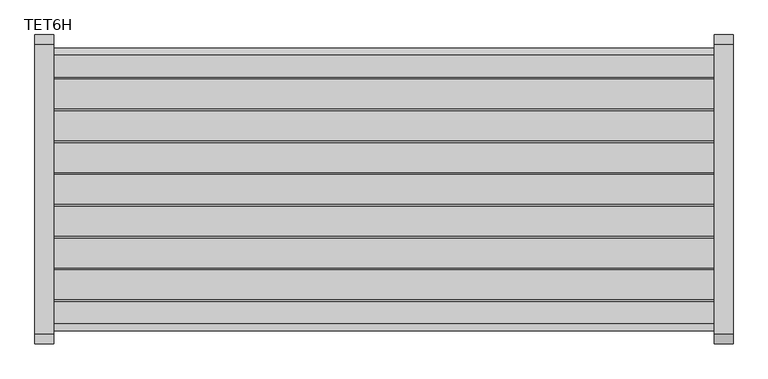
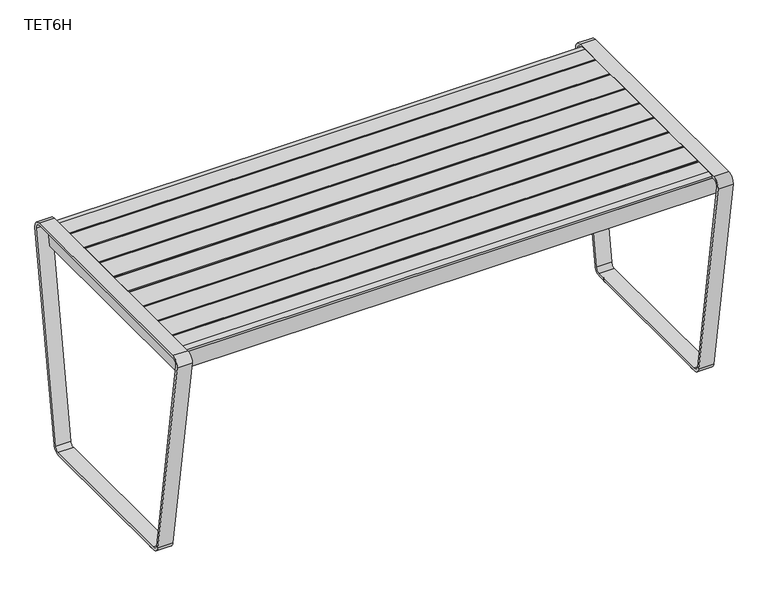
"""IFC4 building model written with IfcOpenShell, lengths in millimetres: furniture geometry, Stance_HC-Terrace-Table_HDPE : TET6H."""

from ifc_helpers import new_model, si_unit, point, frame, frame_2d, origin, origin_with_axes, place, context, project, spatial, polyline, circle_curve, trimmed, segment, composite_curve, outline, extrude, faceted_brep, source, transform, mapped, element, save


def tet6h_96331e00(model_context):
    return source(origin(), model_context, "Body", "SolidModel", [
        extrude(outline(polyline([(1441.45, 466.6001935), (1441.45, -283.1265265), (1352.55, -283.1265265), (1352.55, 466.6001935), (1441.45, 466.6001935)])), frame((0.0, 0.0, 752.475), z_axis=(0.0, 0.0, 1.0), x_axis=(1.0, 0.0, 0.0)), (0.0, 0.0, 1.0), 3.175),
        extrude(outline(composite_curve([segment(polyline([(-283.1265265, 752.475), (466.6001935, 752.475), (455.9632684, 692.15)]), True, "CONTINUOUS"), segment(trimmed(circle_curve(frame_2d((91.7368335, 7651.2140549)), 6968.5890549), [point((455.9632684, 692.15))], [point((-272.4896014, 692.15))], False, "CARTESIAN"), True, "CONTINUOUS"), segment(polyline([(-272.4896014, 692.15), (-283.1265265, 752.475)]), True, "CONTINUOUS")], self_intersect=False)), frame((1394.6124, 0.0, 0.0), z_axis=(1.0, 0.0, 0.0), x_axis=(0.0, 1.0, 0.0)), (0.0, 0.0, 1.0), 4.7752),
        extrude(outline(polyline([(1212.85, 466.6001935), (1212.85, -283.1265265), (1123.95, -283.1265265), (1123.95, 466.6001935), (1212.85, 466.6001935)])), frame((0.0, 0.0, 752.475), z_axis=(0.0, 0.0, 1.0), x_axis=(1.0, 0.0, 0.0)), (0.0, 0.0, 1.0), 3.175),
        extrude(outline(composite_curve([segment(polyline([(-283.1265265, 752.475), (466.6001935, 752.475), (455.9632684, 692.15)]), True, "CONTINUOUS"), segment(trimmed(circle_curve(frame_2d((91.7368335, 7651.2140549)), 6968.5890549), [point((455.9632684, 692.15))], [point((-272.4896014, 692.15))], False, "CARTESIAN"), True, "CONTINUOUS"), segment(polyline([(-272.4896014, 692.15), (-283.1265265, 752.475)]), True, "CONTINUOUS")], self_intersect=False)), frame((1166.0124, 0.0, 0.0), z_axis=(1.0, 0.0, 0.0), x_axis=(0.0, 1.0, 0.0)), (0.0, 0.0, 1.0), 4.7752),
        extrude(outline(polyline([(984.25, 466.6001935), (984.25, -283.1265265), (895.35, -283.1265265), (895.35, 466.6001935), (984.25, 466.6001935)])), frame((0.0, 0.0, 752.475), z_axis=(0.0, 0.0, 1.0), x_axis=(1.0, 0.0, 0.0)), (0.0, 0.0, 1.0), 3.175),
        extrude(outline(composite_curve([segment(polyline([(-283.1265265, 752.475), (466.6001935, 752.475), (455.9632684, 692.15)]), True, "CONTINUOUS"), segment(trimmed(circle_curve(frame_2d((91.7368335, 7651.2140549)), 6968.5890549), [point((455.9632684, 692.15))], [point((-272.4896014, 692.15))], False, "CARTESIAN"), True, "CONTINUOUS"), segment(polyline([(-272.4896014, 692.15), (-283.1265265, 752.475)]), True, "CONTINUOUS")], self_intersect=False)), frame((937.4124, 0.0, 0.0), z_axis=(1.0, 0.0, 0.0), x_axis=(0.0, 1.0, 0.0)), (0.0, 0.0, 1.0), 4.7752),
        extrude(outline(polyline([(755.65, 466.6001935), (755.65, -283.1265265), (666.75, -283.1265265), (666.75, 466.6001935), (755.65, 466.6001935)])), frame((0.0, 0.0, 752.475), z_axis=(0.0, 0.0, 1.0), x_axis=(1.0, 0.0, 0.0)), (0.0, 0.0, 1.0), 3.175),
        extrude(outline(composite_curve([segment(polyline([(-283.1265265, 752.475), (466.6001935, 752.475), (455.9632684, 692.15)]), True, "CONTINUOUS"), segment(trimmed(circle_curve(frame_2d((91.7368335, 7651.2140549)), 6968.5890549), [point((455.9632684, 692.15))], [point((-272.4896014, 692.15))], False, "CARTESIAN"), True, "CONTINUOUS"), segment(polyline([(-272.4896014, 692.15), (-283.1265265, 752.475)]), True, "CONTINUOUS")], self_intersect=False)), frame((708.8124, 0.0, 0.0), z_axis=(1.0, 0.0, 0.0), x_axis=(0.0, 1.0, 0.0)), (0.0, 0.0, 1.0), 4.7752),
        extrude(outline(polyline([(527.05, 466.6001935), (527.05, -283.1265265), (438.15, -283.1265265), (438.15, 466.6001935), (527.05, 466.6001935)])), frame((0.0, 0.0, 752.475), z_axis=(0.0, 0.0, 1.0), x_axis=(1.0, 0.0, 0.0)), (0.0, 0.0, 1.0), 3.175),
        extrude(outline(composite_curve([segment(polyline([(-283.1265265, 752.475), (466.6001935, 752.475), (455.9632684, 692.15)]), True, "CONTINUOUS"), segment(trimmed(circle_curve(frame_2d((91.7368335, 7651.2140549)), 6968.5890549), [point((455.9632684, 692.15))], [point((-272.4896014, 692.15))], False, "CARTESIAN"), True, "CONTINUOUS"), segment(polyline([(-272.4896014, 692.15), (-283.1265265, 752.475)]), True, "CONTINUOUS")], self_intersect=False)), frame((480.2124, 0.0, 0.0), z_axis=(1.0, 0.0, 0.0), x_axis=(0.0, 1.0, 0.0)), (0.0, 0.0, 1.0), 4.7752),
        extrude(outline(polyline([(1670.05, 466.6001935), (1670.05, -283.1265265), (1581.15, -283.1265265), (1581.15, 466.6001935), (1670.05, 466.6001935)])), frame((0.0, 0.0, 752.475), z_axis=(0.0, 0.0, 1.0), x_axis=(1.0, 0.0, 0.0)), (0.0, 0.0, 1.0), 3.175),
        extrude(outline(composite_curve([segment(polyline([(-283.1265265, 752.475), (466.6001935, 752.475), (455.9632684, 692.15)]), True, "CONTINUOUS"), segment(trimmed(circle_curve(frame_2d((91.7368335, 7651.2140549)), 6968.5890549), [point((455.9632684, 692.15))], [point((-272.4896014, 692.15))], False, "CARTESIAN"), True, "CONTINUOUS"), segment(polyline([(-272.4896014, 692.15), (-283.1265265, 752.475)]), True, "CONTINUOUS")], self_intersect=False)), frame((1623.2124, 0.0, 0.0), z_axis=(1.0, 0.0, 0.0), x_axis=(0.0, 1.0, 0.0)), (0.0, 0.0, 1.0), 4.7752),
        extrude(outline(polyline([(298.45, 466.6001935), (298.45, -283.1265265), (209.55, -283.1265265), (209.55, 466.6001935), (298.45, 466.6001935)])), frame((0.0, 0.0, 752.475), z_axis=(0.0, 0.0, 1.0), x_axis=(1.0, 0.0, 0.0)), (0.0, 0.0, 1.0), 3.175),
        extrude(outline(composite_curve([segment(polyline([(-283.1265265, 752.475), (466.6001935, 752.475), (455.9632684, 692.15)]), True, "CONTINUOUS"), segment(trimmed(circle_curve(frame_2d((91.7368335, 7651.2140549)), 6968.5890549), [point((455.9632684, 692.15))], [point((-272.4896014, 692.15))], False, "CARTESIAN"), True, "CONTINUOUS"), segment(polyline([(-272.4896014, 692.15), (-283.1265265, 752.475)]), True, "CONTINUOUS")], self_intersect=False)), frame((251.6124, 0.0, 0.0), z_axis=(1.0, 0.0, 0.0), x_axis=(0.0, 1.0, 0.0)), (0.0, 0.0, 1.0), 4.7752),
        extrude(outline(composite_curve([segment(trimmed(circle_curve(frame_2d((1854.2, 346.0495496)), 22.225), [point((1876.425, 346.0495496))], [point((1831.975, 346.0495496))], False, "CARTESIAN"), True, "CONTINUOUS"), segment(trimmed(circle_curve(frame_2d((1854.2, 346.0495496)), 22.225), [point((1831.975, 346.0495496))], [point((1876.425, 346.0495496))], False, "CARTESIAN"), True, "CONTINUOUS")], self_intersect=False)), origin_with_axes(), (0.0, 0.0, 1.0), 6.35),
        extrude(outline(composite_curve([segment(trimmed(circle_curve(frame_2d((1854.2, -161.9504504)), 22.225), [point((1876.425, -161.9504504))], [point((1831.975, -161.9504504))], False, "CARTESIAN"), True, "CONTINUOUS"), segment(trimmed(circle_curve(frame_2d((1854.2, -161.9504504)), 22.225), [point((1831.975, -161.9504504))], [point((1876.425, -161.9504504))], False, "CARTESIAN"), True, "CONTINUOUS")], self_intersect=False)), origin_with_axes(), (0.0, 0.0, 1.0), 6.35),
        extrude(outline(polyline([(461.2929482, 692.15), (-277.1938489, 692.15), (-288.9504504, 758.825), (473.0495496, 758.825), (461.2929482, 692.15)])), frame((1851.025, 0.0, 0.0), z_axis=(1.0, 0.0, 0.0), x_axis=(0.0, 1.0, 0.0)), (0.0, 0.0, 1.0), 6.35),
        extrude(outline(composite_curve([segment(trimmed(circle_curve(frame_2d((370.3861957, 31.75)), 25.4), [point((395.4734795, 27.7765646))], [point((370.3861957, 6.35))], False, "CARTESIAN"), True, "CONTINUOUS"), segment(polyline([(370.3861957, 6.35), (-186.2870964, 6.35)]), True, "CONTINUOUS"), segment(trimmed(circle_curve(frame_2d((-186.2870964, 31.75)), 25.4), [point((-186.2870964, 6.35))], [point((-211.3743803, 27.7765646))], False, "CARTESIAN"), True, "CONTINUOUS"), segment(polyline([(-211.3743803, 27.7765646), (-324.0173942, 738.9765646)]), True, "CONTINUOUS"), segment(trimmed(circle_curve(frame_2d((-298.9301104, 742.95)), 25.4), [point((-324.0173942, 738.9765646))], [point((-298.9301104, 768.35))], False, "CARTESIAN"), True, "CONTINUOUS"), segment(polyline([(-298.9301104, 768.35), (483.0292096, 768.35)]), True, "CONTINUOUS"), segment(trimmed(circle_curve(frame_2d((483.0292096, 742.95)), 25.4), [point((483.0292096, 768.35))], [point((508.1164935, 738.9765646))], False, "CARTESIAN"), True, "CONTINUOUS"), segment(polyline([(508.1164935, 738.9765646), (395.4734795, 27.7765646)]), True, "CONTINUOUS")], self_intersect=False), holes=[composite_curve([segment(trimmed(circle_curve(frame_2d((-298.9301104, 742.95)), 15.875), [point((-298.9301104, 758.825))], [point((-314.6096628, 740.4666029))], True, "CARTESIAN"), True, "CONTINUOUS"), segment(polyline([(-314.6096628, 740.4666029), (-201.9666488, 29.2666029)]), True, "CONTINUOUS"), segment(trimmed(circle_curve(frame_2d((-186.2870964, 31.75)), 15.875), [point((-201.9666488, 29.2666029))], [point((-186.2870964, 15.875))], True, "CARTESIAN"), True, "CONTINUOUS"), segment(polyline([(-186.2870964, 15.875), (370.3861957, 15.875)]), True, "CONTINUOUS"), segment(trimmed(circle_curve(frame_2d((370.3861957, 31.75)), 15.875), [point((370.3861957, 15.875))], [point((386.0657481, 29.2666029))], True, "CARTESIAN"), True, "CONTINUOUS"), segment(polyline([(386.0657481, 29.2666029), (498.708762, 740.4666029)]), True, "CONTINUOUS"), segment(trimmed(circle_curve(frame_2d((483.0292096, 742.95)), 15.875), [point((498.708762, 740.4666029))], [point((483.0292096, 758.825))], True, "CARTESIAN"), True, "CONTINUOUS"), segment(polyline([(483.0292096, 758.825), (-298.9301104, 758.825)]), True, "CONTINUOUS")], self_intersect=False)]), frame((1828.8, 0.0, 0.0), z_axis=(1.0, 0.0, 0.0), x_axis=(0.0, 1.0, 0.0)), (0.0, 0.0, 1.0), 50.8),
        extrude(outline(composite_curve([segment(trimmed(circle_curve(frame_2d((25.4, 346.0495496)), 22.225), [point((3.175, 346.0495496))], [point((47.625, 346.0495496))], False, "CARTESIAN"), True, "CONTINUOUS"), segment(trimmed(circle_curve(frame_2d((25.4, 346.0495496)), 22.225), [point((47.625, 346.0495496))], [point((3.175, 346.0495496))], False, "CARTESIAN"), True, "CONTINUOUS")], self_intersect=False)), origin_with_axes(), (0.0, 0.0, 1.0), 6.35),
        extrude(outline(composite_curve([segment(trimmed(circle_curve(frame_2d((25.4, -161.9504504)), 22.225), [point((3.175, -161.9504504))], [point((47.625, -161.9504504))], False, "CARTESIAN"), True, "CONTINUOUS"), segment(trimmed(circle_curve(frame_2d((25.4, -161.9504504)), 22.225), [point((47.625, -161.9504504))], [point((3.175, -161.9504504))], False, "CARTESIAN"), True, "CONTINUOUS")], self_intersect=False)), origin_with_axes(), (0.0, 0.0, 1.0), 6.35),
        extrude(outline(polyline([(461.2929482, 692.15), (-277.1938489, 692.15), (-288.9504504, 758.825), (473.0495496, 758.825), (461.2929482, 692.15)])), frame((22.225, 0.0, 0.0), z_axis=(1.0, 0.0, 0.0), x_axis=(0.0, 1.0, 0.0)), (0.0, 0.0, 1.0), 6.35),
        extrude(outline(composite_curve([segment(polyline([(-298.9301104, 768.35), (483.0292096, 768.35)]), True, "CONTINUOUS"), segment(trimmed(circle_curve(frame_2d((483.0292096, 742.95)), 25.4), [point((483.0292096, 768.35))], [point((508.1164935, 738.9765646))], False, "CARTESIAN"), True, "CONTINUOUS"), segment(polyline([(508.1164935, 738.9765646), (395.4734795, 27.7765646)]), True, "CONTINUOUS"), segment(trimmed(circle_curve(frame_2d((370.3861957, 31.75)), 25.4), [point((395.4734795, 27.7765646))], [point((370.3861957, 6.35))], False, "CARTESIAN"), True, "CONTINUOUS"), segment(polyline([(370.3861957, 6.35), (-186.2870964, 6.35)]), True, "CONTINUOUS"), segment(trimmed(circle_curve(frame_2d((-186.2870964, 31.75)), 25.4), [point((-186.2870964, 6.35))], [point((-211.3743803, 27.7765646))], False, "CARTESIAN"), True, "CONTINUOUS"), segment(polyline([(-211.3743803, 27.7765646), (-324.0173942, 738.9765646)]), True, "CONTINUOUS"), segment(trimmed(circle_curve(frame_2d((-298.9301104, 742.95)), 25.4), [point((-324.0173942, 738.9765646))], [point((-298.9301104, 768.35))], False, "CARTESIAN"), True, "CONTINUOUS")], self_intersect=False), holes=[composite_curve([segment(polyline([(386.0657481, 29.2666029), (498.708762, 740.4666029)]), True, "CONTINUOUS"), segment(trimmed(circle_curve(frame_2d((483.0292096, 742.95)), 15.875), [point((498.708762, 740.4666029))], [point((483.0292096, 758.825))], True, "CARTESIAN"), True, "CONTINUOUS"), segment(polyline([(483.0292096, 758.825), (-298.9301104, 758.825)]), True, "CONTINUOUS"), segment(trimmed(circle_curve(frame_2d((-298.9301104, 742.95)), 15.875), [point((-298.9301104, 758.825))], [point((-314.6096628, 740.4666029))], True, "CARTESIAN"), True, "CONTINUOUS"), segment(polyline([(-314.6096628, 740.4666029), (-201.9666488, 29.2666029)]), True, "CONTINUOUS"), segment(trimmed(circle_curve(frame_2d((-186.2870964, 31.75)), 15.875), [point((-201.9666488, 29.2666029))], [point((-186.2870964, 15.875))], True, "CARTESIAN"), True, "CONTINUOUS"), segment(polyline([(-186.2870964, 15.875), (370.3861957, 15.875)]), True, "CONTINUOUS"), segment(trimmed(circle_curve(frame_2d((370.3861957, 31.75)), 15.875), [point((370.3861957, 15.875))], [point((386.0657481, 29.2666029))], True, "CARTESIAN"), True, "CONTINUOUS")], self_intersect=False)]), frame((0.0, 0.0, 0.0), z_axis=(1.0, 0.0, 0.0), x_axis=(0.0, 1.0, 0.0)), (0.0, 0.0, 1.0), 50.8),
        faceted_brep([(50.8, -263.1223339, 752.475), (50.8, -263.1223339, 755.65), (28.575, -263.1223339, 755.65), (28.575, -263.1223339, 752.475), (33.3375, -263.1223339, 752.475), (28.575, 446.5960009, 752.475), (28.575, 446.5960009, 755.65), (50.8, 446.5960009, 755.65), (50.8, 446.5960009, 752.475), (33.3375, 446.5960009, 752.475), (28.575, 467.1615335, 752.475), (28.575, 456.5246084, 692.15), (28.575, -273.0509414, 692.15), (28.575, -283.6878665, 752.475), (33.3375, -283.6878665, 752.475), (33.3375, -273.0509414, 692.15), (33.3375, 456.5246084, 692.15), (33.3375, 467.1615335, 752.475)], [[[0, 1, 2, 3, 4]], [[5, 6, 7, 8, 9]], [[8, 0, 4, 9]], [[3, 2, 6, 5, 10, 11, 12, 13]], [[2, 1, 7, 6]], [[1, 0, 8, 7]], [[14, 15, 16, 17, 9, 4]], [[15, 14, 13, 12]], [[16, 15, 12, 11]], [[17, 16, 11, 10]], [[13, 14, 4, 3]], [[17, 10, 5, 9]]]),
        faceted_brep([(1851.025, -263.1223339, 752.475), (1851.025, -263.1223339, 755.65), (1828.8, -263.1223339, 755.65), (1828.8, -263.1223339, 752.475), (1847.85, -263.1223339, 752.475), (1828.8, 446.5960009, 752.475), (1828.8, 446.5960009, 755.65), (1851.025, 446.5960009, 755.65), (1851.025, 446.5960009, 752.475), (1847.85, 446.5960009, 752.475), (1847.85, 467.1615335, 752.475), (1847.85, 456.5246084, 692.15), (1847.85, -273.0509414, 692.15), (1847.85, -283.6878665, 752.475), (1851.025, -273.0509414, 692.15), (1851.025, -283.6878665, 752.475), (1851.025, 456.5246084, 692.15), (1851.025, 467.1615335, 752.475)], [[[0, 1, 2, 3, 4]], [[5, 6, 7, 8, 9]], [[10, 11, 12, 13, 4, 9]], [[13, 12, 14, 15]], [[12, 11, 16, 14]], [[11, 10, 17, 16]], [[13, 15, 0, 4]], [[17, 10, 9, 8]], [[3, 5, 9, 4]], [[1, 0, 15, 14, 16, 17, 8, 7]], [[2, 1, 7, 6]], [[3, 2, 6, 5]]]),
        extrude(outline(polyline([(394.9493335, 768.35), (453.6868335, 768.35), (472.7368335, 765.3327764), (471.0294987, 755.65), (-287.5558318, 755.65), (-289.2631665, 765.3327764), (-270.2131665, 768.35), (-211.4756665, 768.35), (-211.4756665, 765.175), (-205.1256665, 765.175), (-205.1256665, 768.35), (-125.7506665, 768.35), (-125.7506665, 765.175), (-119.4006665, 765.175), (-119.4006665, 768.35), (-40.0256665, 768.35), (-40.0256665, 765.175), (-33.6756665, 765.175), (-33.6756665, 768.35), (45.6993335, 768.35), (45.6993335, 765.175), (52.0493335, 765.175), (52.0493335, 768.35), (131.4243335, 768.35), (131.4243335, 765.175), (137.7743335, 765.175), (137.7743335, 768.35), (217.1493335, 768.35), (217.1493335, 765.175), (223.4993335, 765.175), (223.4993335, 768.35), (302.8743335, 768.35), (302.8743335, 765.175), (309.2243335, 765.175), (309.2243335, 768.35), (388.5993335, 768.35), (388.5993335, 765.175), (394.9493335, 765.175), (394.9493335, 768.35)])), frame((50.8, 0.0, 0.0), z_axis=(1.0, 0.0, 0.0), x_axis=(0.0, 1.0, 0.0)), (0.0, 0.0, 1.0), 1778.0),
        extrude(outline(polyline([(-277.1797483, 691.3230006), (-288.5223339, 755.65), (-263.1223339, 755.65), (-263.1223339, 750.8875), (-282.8466074, 750.8875), (-272.4896014, 692.15), (-277.1797483, 691.3230006)])), frame((28.575, 0.0, 0.0), z_axis=(1.0, 0.0, 0.0), x_axis=(0.0, 1.0, 0.0)), (0.0, 0.0, 1.0), 1822.45),
        extrude(outline(polyline([(460.6534153, 691.3230006), (455.9632684, 692.15), (466.3202744, 750.8875), (446.5960009, 750.8875), (446.5960009, 755.65), (471.9960009, 755.65), (460.6534153, 691.3230006)])), frame((28.575, 0.0, 0.0), z_axis=(1.0, 0.0, 0.0), x_axis=(0.0, 1.0, 0.0)), (0.0, 0.0, 1.0), 1822.45),
    ])


if __name__ == "__main__":
    model = new_model("IFC4")
    model_context = context("Model", 3, world=origin())
    ifc_project = project(units=[si_unit("LENGTHUNIT", "METRE", prefix="MILLI")], contexts=[model_context])
    site = spatial("IfcSite", under=ifc_project)
    building = spatial("IfcBuilding", under=site)
    placement = place(None, origin())
    tet6h_shape = tet6h_96331e00(model_context)
    element("IfcFurniture", 1, ObjectType="Stance_HC-Terrace-Table_HDPE : TET6H", at=placement, inside=building, context=model_context, shape_type="MappedRepresentation", body=[
        mapped(tet6h_shape, transform((0.0, 0.0, 0.0), x_axis=(1.0, 0.0, 0.0), y_axis=(0.0, 1.0, 0.0), z_axis=(0.0, 0.0, 1.0))),
    ])
    save(model, "model.ifc")
